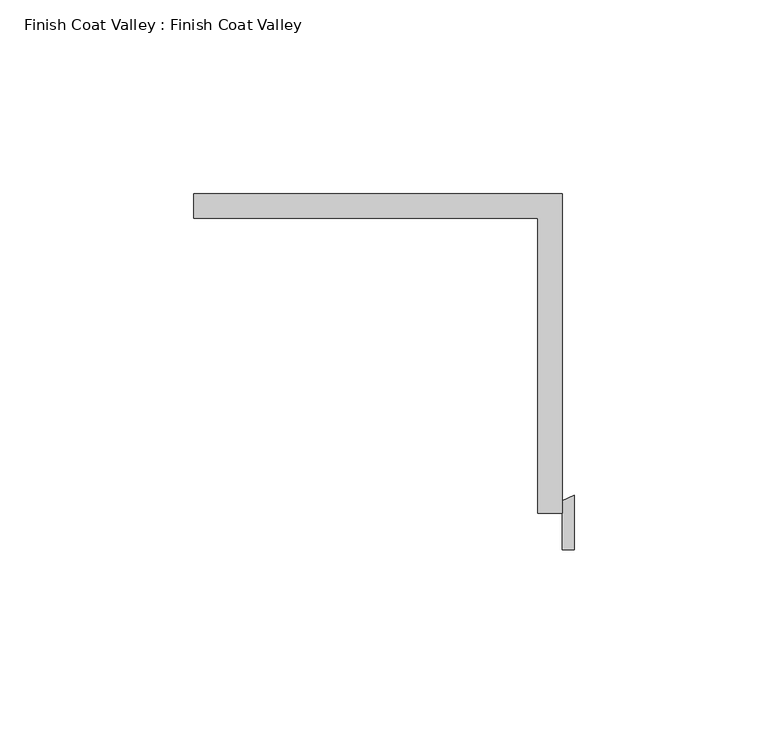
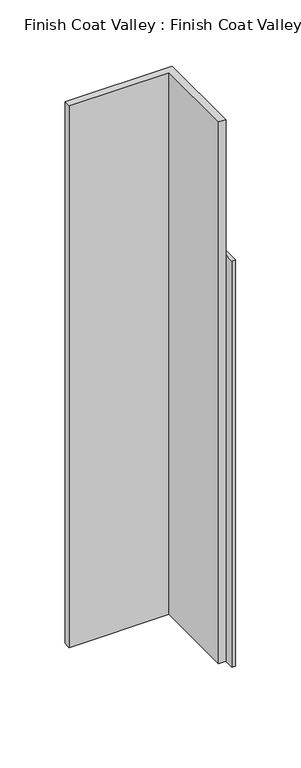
"""IFC4 building model written with IfcOpenShell, lengths in millimetres: proxy geometry, Finish Coat Valley : Finish Coat Valley."""

from ifc_helpers import new_model, si_unit, point, frame_2d, origin, origin_with_axes, place, context, project, spatial, polyline, circle_curve, trimmed, segment, composite_curve, outline, extrude, source, transform, mapped, element, save


def finish_coat_valley_finish_coat_valley_5edf1750(model_context):
    return source(origin(), model_context, "Body", "SweptSolid", [
        extrude(outline(polyline([(26815.4039273, 630.8066297), (26815.4039273, 548.2566297), (26809.0539273, 548.2566297), (26809.0539273, 624.4566297), (26720.1539273, 624.4566297), (26720.1539273, 630.8066297), (26815.4039273, 630.8066297)])), origin_with_axes(), (0.0, 0.0, 1.0), 508.0),
        extrude(outline(composite_curve([segment(trimmed(circle_curve(frame_2d((26824.9289273, 534.9338457)), 19.05), [point((26815.4039273, 551.4316297))], [point((26818.5789273, 552.894358))], False, "CARTESIAN"), True, "CONTINUOUS"), segment(polyline([(26818.5789273, 552.894358), (26818.5789273, 538.7316297), (26815.4039273, 538.7316297), (26815.4039273, 551.4316297)]), True, "CONTINUOUS")], self_intersect=False)), origin_with_axes(), (0.0, 0.0, 1.0), 381.0),
    ])


if __name__ == "__main__":
    model = new_model("IFC4")
    model_context = context("Model", 3, world=origin())
    ifc_project = project(units=[si_unit("LENGTHUNIT", "METRE", prefix="MILLI")], contexts=[model_context])
    site = spatial("IfcSite", under=ifc_project)
    building = spatial("IfcBuilding", under=site)
    placement = place(None, origin())
    finish_coat_valley_finish_coat_valley_shape = finish_coat_valley_finish_coat_valley_5edf1750(model_context)
    element("IfcBuildingElementProxy", 1, Name="Finish Coat Valley : Finish Coat Valley", ObjectType="Finish Coat Valley : Finish Coat Valley", at=placement, inside=building, context=model_context, shape_type="MappedRepresentation", body=[
        mapped(finish_coat_valley_finish_coat_valley_shape, transform((0.0, 0.0, 0.0), x_axis=(1.0, 0.0, 0.0), y_axis=(0.0, 1.0, 0.0), z_axis=(0.0, 0.0, 1.0))),
    ])
    save(model, "model.ifc")
